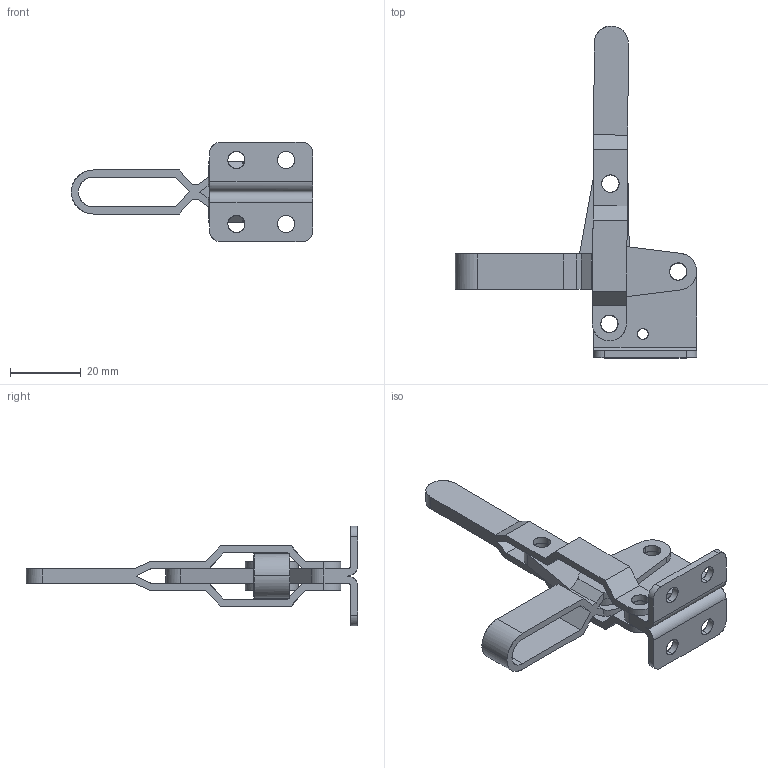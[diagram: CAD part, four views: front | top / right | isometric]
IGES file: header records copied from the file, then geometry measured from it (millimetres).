
Start section: Comment
Global section: file name: 102b.igs; native system:  By Spatial Corp.; preprocessor: XPlus PS/IGES 3.0; author: Author; organization: Title; date: 20050216.164308; units: inch
Bounding box: 68 x 93.5 x 28 mm (x, y, z)
Surface area: 11775.2 mm2 (no closed solid volume)
Topology: 0 solids, 0 shells, 131 faces, 738 edges, 738 vertices
Faces by surface type: extrusion 69, revolution 62
